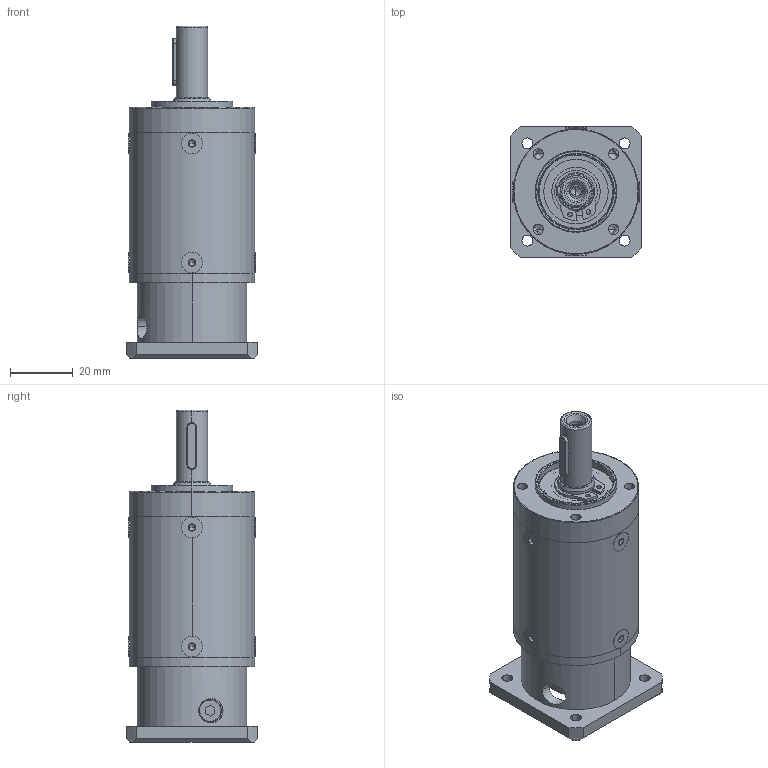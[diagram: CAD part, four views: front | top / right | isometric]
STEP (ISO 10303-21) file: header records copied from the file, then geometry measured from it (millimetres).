
FILE_DESCRIPTION (( 'STEP AP214' ), '1' );
FILE_NAME ('GSLL-040-0_ _-N017_-XX Two Stage.STEP', '2025-08-26T14:44:59', ( '' ), ( '' ), 'SwSTEP 2.0', 'SolidWorks 2020', '' );
FILE_SCHEMA (( 'AUTOMOTIVE_DESIGN' ));
Length unit declared in the file: millimetre
Products named in the file (1): GSLL-040-0_ _-N017_-XX Two Stage
Bounding box: 42 x 42 x 106 mm (x, y, z)
Volume: 56793.8 mm3; surface area: 43576.4 mm2
Topology: 28 solids, 28 shells, 1128 faces, 3035 edges, 1885 vertices
Faces by surface type: bspline 385, cylinder 312, plane 260, cone 171
Entity records: 51476 total; most frequent: CARTESIAN_POINT 22817, ORIENTED_EDGE 5898, DIRECTION 4640, EDGE_CURVE 2949, AXIS2_PLACEMENT_3D 2007, VERTEX_POINT 1885, EDGE_LOOP 1308, CIRCLE 1263
